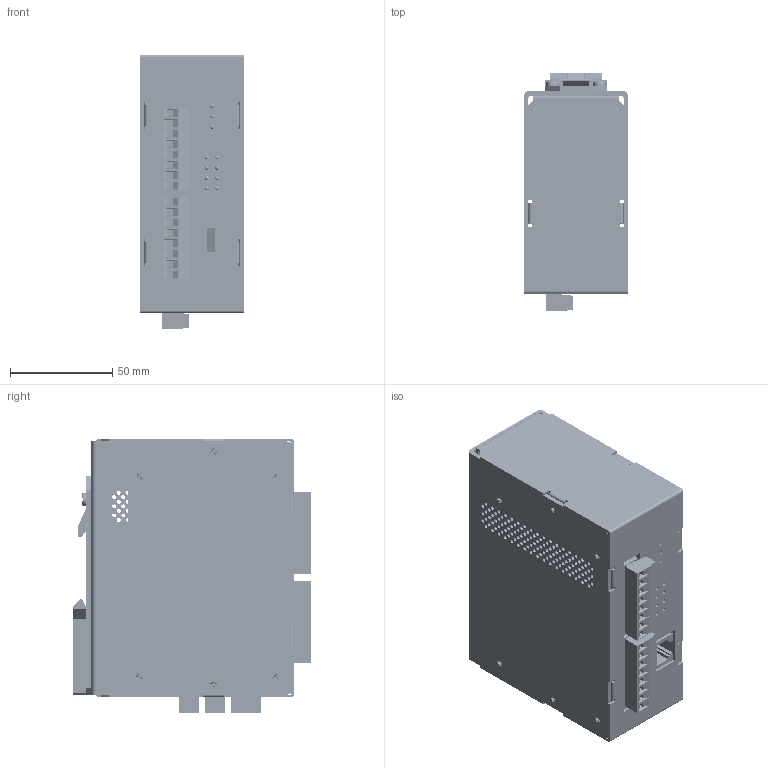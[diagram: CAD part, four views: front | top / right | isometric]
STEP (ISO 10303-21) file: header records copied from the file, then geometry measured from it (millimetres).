
FILE_DESCRIPTION( ( 'Cobalt' ), 'Build 889' );
FILE_NAME( '/Users/lisaweeks/Desktop/DIN/Contact Closure - Smart Series/I:O/Exploded Assembly/Cobalt/Smart IO Assembly.stp', ' ', ( 'Lisa Weeks' ), ( 'RLH Industries' ), 'ACIS Interop', 'Ashlar, Incorporated', 'Cobalt BY ASHLAR, INCORPORATED' );
FILE_SCHEMA( ( 'automotive_design' ) );
Length unit declared in the file: inch
Products named in the file (100): 1; 2; 3; 4; 5; 6; 7; 8; 9; 10; 11; 12; 13; 14; 15; 16; 17; 18; 19; 20; 21; 22; 23; 24; 25; 26; 27; 28; 29; 30; 31; 32; 33; 34; 35; 36; 37; 38; 39; 40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
Bounding box: 50.8 x 116.48 x 134.16 mm (x, y, z)
Volume: 147903.6 mm3; surface area: 178147.8 mm2
Topology: 100 solids, 100 shells, 3458 faces, 8408 edges, 5206 vertices
Faces by surface type: plane 1231, cone 1102, cylinder 1052, bspline 48, torus 14, sphere 11
Entity records: 201841 total; most frequent: CARTESIAN_POINT 19194, DIRECTION 18676, STYLED_ITEM 17150, PRESENTATION_STYLE_ASSIGNMENT 17150, COLOUR_RGB 17150, ORIENTED_EDGE 16772, EDGE_CURVE 8386, CURVE_STYLE 8386
